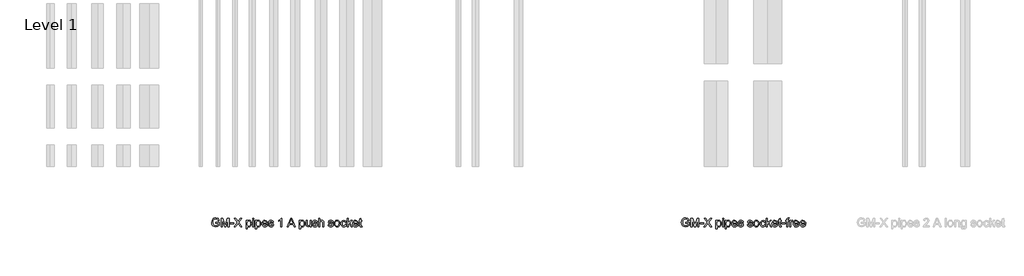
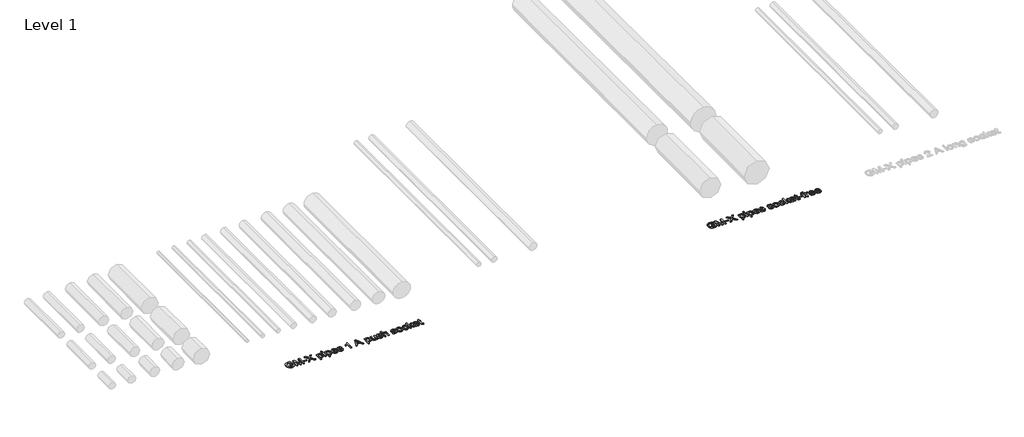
# One storey, part 6 of 8: 2 proxies.
"""IFC4 building model written with IfcOpenShell, lengths in millimetres."""

from ifc_helpers import new_model, si_unit, origin, origin_with_axes, place, context, project, spatial, polyline, outline, extrude, element, save

model = new_model("IFC4")

# Units and contexts
model_context = context("Model", 3, world=origin())
ifc_project = project(units=[si_unit("LENGTHUNIT", "METRE", prefix="MILLI")], contexts=[model_context])

# Site, building, storey
site = spatial("IfcSite", under=ifc_project)
building = spatial("IfcBuilding", under=site)
storey = spatial("IfcBuildingStorey", under=building, Name="Level 1", Elevation=0.0)

# Proxies
placement = place(None, origin())
element("IfcBuildingElementProxy", 1, Name="100mm ACO", ObjectType="100mm ACO", at=placement, inside=storey, context=model_context, shape_type="SweptSolid", body=[
    extrude(outline(polyline([(3317.5925926, -686.6608796), (3298.1843171, -698.0541088), (3277.0543981, -701.8518519), (3256.6731771, -698.3362269), (3240.6684028, -687.7893519), (3230.3059896, -671.412037), (3226.8518519, -650.4050926), (3232.4797454, -623.900463), (3239.4422743, -613.0135995), (3249.0740741, -604.8900463), (3261.2630208, -599.8336227), (3275.8969907, -598.1481481), (3290.7335069, -600.0217014), (3302.3148148, -605.6423611), (3310.6481481, -615.0028935), (3315.7407407, -628.0960648), (3302.7777778, -631.4814815), (3299.0198206, -621.7773437), (3293.1278935, -614.8292824), (3285.1019965, -610.651765), (3274.9421296, -609.2592593), (3259.6824363, -612.0659722), (3248.6834491, -620.4861111), (3242.0319734, -633.4490741), (3239.8148148, -649.8842593), (3244.1984954, -672.4971065), (3257.2048611, -686.1255787), (3275.9548611, -690.7407407), (3290.8203125, -687.9340278), (3304.6296296, -679.5138889), (3304.6296296, -659.2592593), (3275.0, -659.2592593), (3275.0, -648.1481481), (3317.5925926, -648.1481481), (3317.5925926, -686.6608796)])), origin_with_axes(), (0.0, 0.0, 1.0), 10.0),
    extrude(outline(polyline([(3430.5555556, -700.0), (3417.5925926, -700.0), (3417.5925926, -616.2037037), (3392.0717593, -700.0), (3378.2986111, -700.0), (3351.3020833, -614.84375), (3350.9259259, -700.0), (3337.962963, -700.0), (3337.962963, -600.0), (3357.6678241, -600.0), (3380.4976852, -670.8622685), (3384.9247685, -685.6770833), (3389.9305556, -669.6469907), (3411.2847222, -600.0), (3430.5555556, -600.0), (3430.5555556, -700.0)])), origin_with_axes(), (0.0, 0.0, 1.0), 10.0),
    extrude(outline(polyline([(3484.2592593, -666.6666667), (3445.3703704, -666.6666667), (3445.3703704, -657.4074074), (3484.2592593, -657.4074074), (3484.2592593, -666.6666667)])), origin_with_axes(), (0.0, 0.0, 1.0), 10.0),
    extrude(outline(polyline([(3580.5555556, -700.0), (3564.9305556, -700.0), (3544.0104167, -671.4699074), (3534.9537037, -658.7384259), (3503.7615741, -700.0), (3487.962963, -700.0), (3526.9097222, -648.0902778), (3491.6666667, -600.0), (3507.2916667, -600.0), (3529.5717593, -630.4108796), (3534.7800926, -637.5578704), (3562.9340278, -600.0), (3578.7037037, -600.0), (3542.5925926, -648.1770833), (3580.5555556, -700.0)])), origin_with_axes(), (0.0, 0.0, 1.0), 10.0),
    extrude(outline(polyline([(3641.796875, -636.4872685), (3650.2531829, -628.5662616), (3661.9212963, -625.9259259), (3674.2476852, -628.515625), (3683.6805556, -636.2847222), (3689.6701389, -648.2132523), (3691.6666667, -663.28125), (3689.4097222, -679.1702836), (3682.6388889, -691.4207176), (3672.583912, -699.2440683), (3660.474537, -701.8518519), (3650.1012731, -699.7251157), (3642.0138889, -693.3449074), (3641.6666667, -727.7777778), (3628.7037037, -727.7777778), (3628.7037037, -627.7777778), (3641.6666667, -627.7777778), (3641.796875, -636.4872685)]), holes=[polyline([(3659.056713, -692.5925926), (3666.8294271, -690.766059), (3673.1336806, -685.2864583), (3677.3111979, -676.1899595), (3678.7037037, -663.5127315), (3677.3618345, -651.4359086), (3673.3362269, -642.5202546), (3667.2200521, -637.0189525), (3659.6064815, -635.1851852), (3651.7252604, -637.2287326), (3645.384838, -643.359375), (3641.2073206, -652.7452257), (3639.8148148, -664.5543981), (3641.1494502, -676.66739), (3645.1533565, -685.4600694), (3651.2984664, -690.8094618), (3659.056713, -692.5925926)])]), origin_with_axes(), (0.0, 0.0, 1.0), 10.0),
    extrude(outline(polyline([(3719.4444444, -612.962963), (3706.4814815, -612.962963), (3706.4814815, -600.0), (3719.4444444, -600.0), (3719.4444444, -612.962963)])), origin_with_axes(), (0.0, 0.0, 1.0), 10.0),
    extrude(outline(polyline([(3719.4444444, -700.0), (3706.4814815, -700.0), (3706.4814815, -627.7777778), (3719.4444444, -627.7777778), (3719.4444444, -700.0)])), origin_with_axes(), (0.0, 0.0, 1.0), 10.0),
    extrude(outline(polyline([(3751.0561343, -636.4872685), (3759.5124421, -628.5662616), (3771.1805556, -625.9259259), (3783.5069444, -628.515625), (3792.9398148, -636.2847222), (3798.9293981, -648.2132523), (3800.9259259, -663.28125), (3798.6689815, -679.1702836), (3791.8981481, -691.4207176), (3781.8431713, -699.2440683), (3769.7337963, -701.8518519), (3759.3605324, -699.7251157), (3751.2731481, -693.3449074), (3750.9259259, -727.7777778), (3737.962963, -727.7777778), (3737.962963, -627.7777778), (3750.9259259, -627.7777778), (3751.0561343, -636.4872685)]), holes=[polyline([(3768.3159722, -692.5925926), (3776.0886863, -690.766059), (3782.3929398, -685.2864583), (3786.5704572, -676.1899595), (3787.962963, -663.5127315), (3786.6210938, -651.4359086), (3782.5954861, -642.5202546), (3776.4793113, -637.0189525), (3768.8657407, -635.1851852), (3760.9845197, -637.2287326), (3754.6440972, -643.359375), (3750.4665799, -652.7452257), (3749.0740741, -664.5543981), (3750.4087095, -676.66739), (3754.4126157, -685.4600694), (3760.5577257, -690.8094618), (3768.3159722, -692.5925926)])]), origin_with_axes(), (0.0, 0.0, 1.0), 10.0),
    extrude(outline(polyline([(3878.7037037, -666.6666667), (3825.0, -666.6666667), (3827.0724826, -677.7922454), (3831.7853009, -685.9375), (3838.566985, -690.9288194), (3846.8460648, -692.5925926), (3858.521412, -688.9033565), (3865.7407407, -677.7777778), (3878.7037037, -679.2824074), (3874.3272569, -688.9033565), (3867.3900463, -696.0069444), (3858.1452546, -700.390625), (3846.8460648, -701.8518519), (3832.2591146, -699.3453414), (3821.2528935, -691.8258102), (3814.3410012, -679.9660012), (3812.037037, -664.4386574), (3814.2578125, -648.900463), (3820.9201389, -636.6030093), (3831.6189236, -628.5951968), (3845.9490741, -625.9259259), (3861.1689815, -629.3836806), (3873.5966435, -641.1603009), (3877.4269387, -651.6963252), (3878.7037037, -666.6666667)]), holes=[polyline([(3865.7407407, -657.4074074), (3863.6574074, -647.2511574), (3858.912037, -640.3935185), (3845.630787, -635.1851852), (3837.7748843, -636.7332176), (3831.4525463, -641.3773148), (3825.0, -657.4074074), (3865.7407407, -657.4074074)])]), origin_with_axes(), (0.0, 0.0, 1.0), 10.0),
    extrude(outline(polyline([(3934.2592593, -648.1481481), (3929.4704861, -638.4259259), (3918.4027778, -635.1851852), (3907.0891204, -637.962963), (3902.7777778, -646.0358796), (3905.6278935, -653.1828704), (3919.068287, -657.0601852), (3936.791088, -661.2268519), (3945.8333333, -667.5491898), (3949.0740741, -678.8773148), (3947.0630787, -687.8074363), (3941.0300926, -695.2112269), (3931.6333912, -700.1916956), (3919.53125, -701.8518519), (3907.0565683, -700.4557292), (3897.6417824, -696.2673611), (3891.2796586, -689.2939815), (3887.962963, -679.5428241), (3900.9259259, -677.7777778), (3906.5248843, -688.9033565), (3919.53125, -692.5925926), (3931.8287037, -688.7586806), (3936.1111111, -679.4270833), (3934.1869213, -673.4519676), (3929.3836806, -670.0810185), (3915.7986111, -667.1875), (3894.8640046, -659.375), (3889.8148148, -646.7881944), (3891.6847512, -638.5018808), (3897.2945602, -631.8142361), (3906.0655382, -627.3980035), (3917.4189815, -625.9259259), (3929.3511285, -627.2135417), (3938.2957176, -631.0763889), (3944.2527488, -637.5072338), (3947.2222222, -646.4988426), (3934.2592593, -648.1481481)])), origin_with_axes(), (0.0, 0.0, 1.0), 10.0),
    extrude(outline(polyline([(4045.3703704, -700.0), (4032.4074074, -700.0), (4032.4074074, -622.2222222), (4008.3333333, -637.037037), (4008.3333333, -627.7777778), (4026.6059028, -616.0590278), (4037.962963, -601.8518519), (4045.3703704, -601.8518519), (4045.3703704, -700.0)])), origin_with_axes(), (0.0, 0.0, 1.0), 10.0),
    extrude(outline(polyline([(4201.3888889, -700.0), (4187.5868056, -700.0), (4175.6076389, -670.3703704), (4133.1597222, -670.3703704), (4121.6435185, -700.0), (4107.8703704, -700.0), (4146.7303241, -600.0), (4160.9085648, -600.0), (4201.3888889, -700.0)]), holes=[polyline([(4171.09375, -659.2592593), (4156.6695602, -622.5983796), (4153.7037037, -610.9375), (4149.0451389, -629.5138889), (4137.5, -659.2592593), (4171.09375, -659.2592593)])]), origin_with_axes(), (0.0, 0.0, 1.0), 10.0),
    extrude(outline(polyline([(4262.1672454, -636.4872685), (4270.6235532, -628.5662616), (4282.2916667, -625.9259259), (4294.6180556, -628.515625), (4304.0509259, -636.2847222), (4310.0405093, -648.2132523), (4312.037037, -663.28125), (4309.7800926, -679.1702836), (4303.0092593, -691.4207176), (4292.9542824, -699.2440683), (4280.8449074, -701.8518519), (4270.4716435, -699.7251157), (4262.3842593, -693.3449074), (4262.037037, -727.7777778), (4249.0740741, -727.7777778), (4249.0740741, -627.7777778), (4262.037037, -627.7777778), (4262.1672454, -636.4872685)]), holes=[polyline([(4279.4270833, -692.5925926), (4287.1997975, -690.766059), (4293.5040509, -685.2864583), (4297.6815683, -676.1899595), (4299.0740741, -663.5127315), (4297.7322049, -651.4359086), (4293.7065972, -642.5202546), (4287.5904225, -637.0189525), (4279.9768519, -635.1851852), (4272.0956308, -637.2287326), (4265.7552083, -643.359375), (4261.577691, -652.7452257), (4260.1851852, -664.5543981), (4261.5198206, -676.66739), (4265.5237269, -685.4600694), (4271.6688368, -690.8094618), (4279.4270833, -692.5925926)])]), origin_with_axes(), (0.0, 0.0, 1.0), 10.0),
    extrude(outline(polyline([(4386.1111111, -700.0), (4375.0, -700.0), (4375.0, -689.4965278), (4364.7569444, -698.7630208), (4351.7939815, -701.8518519), (4337.6736111, -698.3362269), (4329.0219907, -688.6574074), (4326.8518519, -672.65625), (4326.8518519, -627.7777778), (4339.8148148, -627.7777778), (4339.8148148, -668.75), (4340.7118056, -682.8414352), (4345.3993056, -689.84375), (4354.4270833, -692.5925926), (4367.1730324, -687.6736111), (4371.6543692, -680.1215278), (4373.1481481, -667.3032407), (4373.1481481, -627.7777778), (4386.1111111, -627.7777778), (4386.1111111, -700.0)])), origin_with_axes(), (0.0, 0.0, 1.0), 10.0),
    extrude(outline(polyline([(4445.3703704, -648.1481481), (4440.5815972, -638.4259259), (4429.5138889, -635.1851852), (4418.2002315, -637.962963), (4413.8888889, -646.0358796), (4416.7390046, -653.1828704), (4430.1793981, -657.0601852), (4447.9021991, -661.2268519), (4456.9444444, -667.5491898), (4460.1851852, -678.8773148), (4458.1741898, -687.8074363), (4452.1412037, -695.2112269), (4442.7445023, -700.1916956), (4430.6423611, -701.8518519), (4418.1676794, -700.4557292), (4408.7528935, -696.2673611), (4402.3907697, -689.2939815), (4399.0740741, -679.5428241), (4412.037037, -677.7777778), (4417.6359954, -688.9033565), (4430.6423611, -692.5925926), (4442.9398148, -688.7586806), (4447.2222222, -679.4270833), (4445.2980324, -673.4519676), (4440.4947917, -670.0810185), (4426.9097222, -667.1875), (4405.9751157, -659.375), (4400.9259259, -646.7881944), (4402.7958623, -638.5018808), (4408.4056713, -631.8142361), (4417.1766493, -627.3980035), (4428.5300926, -625.9259259), (4440.4622396, -627.2135417), (4449.4068287, -631.0763889), (4455.36386, -637.5072338), (4458.3333333, -646.4988426), (4445.3703704, -648.1481481)])), origin_with_axes(), (0.0, 0.0, 1.0), 10.0),
    extrude(outline(polyline([(4532.4074074, -700.0), (4519.4444444, -700.0), (4519.4444444, -653.2986111), (4515.7552083, -639.7135417), (4504.7453704, -635.1851852), (4491.8113426, -640.5237269), (4487.536169, -647.9564525), (4486.1111111, -659.5775463), (4486.1111111, -700.0), (4473.1481481, -700.0), (4473.1481481, -600.0), (4486.1111111, -600.0), (4486.1111111, -635.8217593), (4495.8116319, -628.3998843), (4507.6678241, -625.9259259), (4520.9490741, -628.7905093), (4529.8466435, -637.6012731), (4532.4074074, -654.1087963), (4532.4074074, -700.0)])), origin_with_axes(), (0.0, 0.0, 1.0), 10.0),
    extrude(outline(polyline([(4630.5555556, -648.1481481), (4625.7667824, -638.4259259), (4614.6990741, -635.1851852), (4603.3854167, -637.962963), (4599.0740741, -646.0358796), (4601.9241898, -653.1828704), (4615.3645833, -657.0601852), (4633.0873843, -661.2268519), (4642.1296296, -667.5491898), (4645.3703704, -678.8773148), (4643.359375, -687.8074363), (4637.3263889, -695.2112269), (4627.9296875, -700.1916956), (4615.8275463, -701.8518519), (4603.3528646, -700.4557292), (4593.9380787, -696.2673611), (4587.5759549, -689.2939815), (4584.2592593, -679.5428241), (4597.2222222, -677.7777778), (4602.8211806, -688.9033565), (4615.8275463, -692.5925926), (4628.125, -688.7586806), (4632.4074074, -679.4270833), (4630.4832176, -673.4519676), (4625.6799769, -670.0810185), (4612.0949074, -667.1875), (4591.1603009, -659.375), (4586.1111111, -646.7881944), (4587.9810475, -638.5018808), (4593.5908565, -631.8142361), (4602.3618345, -627.3980035), (4613.7152778, -625.9259259), (4625.6474248, -627.2135417), (4634.5920139, -631.0763889), (4640.5490451, -637.5072338), (4643.5185185, -646.4988426), (4630.5555556, -648.1481481)])), origin_with_axes(), (0.0, 0.0, 1.0), 10.0),
    extrude(outline(polyline([(4687.9340278, -625.9259259), (4701.1103877, -628.3203125), (4711.8200231, -635.5034722), (4718.927228, -647.0992477), (4721.2962963, -662.7314815), (4718.7319155, -681.0040509), (4711.0387731, -692.9976852), (4700.1338252, -699.6383102), (4687.9340278, -701.8518519), (4675.3436053, -699.5768229), (4664.5399306, -692.7517361), (4657.1072049, -680.9859664), (4654.6296296, -663.8888889), (4657.0240162, -647.1715856), (4664.2071759, -635.3298611), (4674.927662, -628.2769097), (4687.9340278, -625.9259259)]), holes=[polyline([(4687.9340278, -692.5925926), (4696.7411748, -690.5852141), (4703.1394676, -684.5630787), (4708.3333333, -663.4259259), (4706.8648727, -651.1429398), (4702.4594907, -642.3032407), (4695.8912037, -636.9646991), (4687.9340278, -635.1851852), (4679.8213252, -636.9900174), (4673.3072917, -642.4045139), (4669.0212674, -651.3925058), (4667.5925926, -663.9178241), (4669.0465856, -676.3997396), (4673.4085648, -685.3732639), (4679.9479167, -690.7877604), (4687.9340278, -692.5925926)])]), origin_with_axes(), (0.0, 0.0, 1.0), 10.0),
    extrude(outline(polyline([(4797.2222222, -675.5497685), (4793.1929977, -687.3553241), (4786.0243056, -695.5150463), (4776.6999421, -700.2676505), (4766.2037037, -701.8518519), (4751.8880208, -699.2621528), (4741.2326389, -691.4930556), (4734.6137153, -679.4487847), (4732.4074074, -664.0335648), (4737.4421296, -641.3483796), (4750.0434028, -629.3836806), (4765.943287, -625.9259259), (4785.4021991, -631.5827546), (4791.937934, -638.566985), (4795.3703704, -648.2060185), (4782.4074074, -650.0), (4776.5046296, -638.9033565), (4766.087963, -635.1851852), (4757.1325231, -637.0695891), (4750.6365741, -642.7228009), (4746.6869213, -651.7541956), (4745.3703704, -663.7731481), (4746.6905382, -676.0018808), (4750.6510417, -685.083912), (4757.0999711, -690.7154225), (4765.8854167, -692.5925926), (4778.4866898, -687.962963), (4784.2592593, -674.0740741), (4797.2222222, -675.5497685)])), origin_with_axes(), (0.0, 0.0, 1.0), 10.0),
    extrude(outline(polyline([(4865.7407407, -700.0), (4852.8645833, -700.0), (4826.7650463, -662.037037), (4817.5925926, -670.3703704), (4817.5925926, -700.0), (4804.6296296, -700.0), (4804.6296296, -600.0), (4817.5925926, -600.0), (4817.5925926, -655.9895833), (4848.5821759, -627.7777778), (4864.3518519, -627.7777778), (4834.6643519, -654.8032407), (4865.7407407, -700.0)])), origin_with_axes(), (0.0, 0.0, 1.0), 10.0),
    extrude(outline(polyline([(4936.1111111, -666.6666667), (4882.4074074, -666.6666667), (4884.47989, -677.7922454), (4889.1927083, -685.9375), (4895.9743924, -690.9288194), (4904.2534722, -692.5925926), (4915.9288194, -688.9033565), (4923.1481481, -677.7777778), (4936.1111111, -679.2824074), (4931.7346644, -688.9033565), (4924.7974537, -696.0069444), (4915.552662, -700.390625), (4904.2534722, -701.8518519), (4889.666522, -699.3453414), (4878.6603009, -691.8258102), (4871.7484086, -679.9660012), (4869.4444444, -664.4386574), (4871.6652199, -648.900463), (4878.3275463, -636.6030093), (4889.026331, -628.5951968), (4903.3564815, -625.9259259), (4918.5763889, -629.3836806), (4931.0040509, -641.1603009), (4934.8343461, -651.6963252), (4936.1111111, -666.6666667)]), holes=[polyline([(4923.1481481, -657.4074074), (4921.0648148, -647.2511574), (4916.3194444, -640.3935185), (4903.0381944, -635.1851852), (4895.1822917, -636.7332176), (4888.8599537, -641.3773148), (4882.4074074, -657.4074074), (4923.1481481, -657.4074074)])]), origin_with_axes(), (0.0, 0.0, 1.0), 10.0),
    extrude(outline(polyline([(4978.7037037, -701.0127315), (4969.6180556, -701.8518519), (4958.0295139, -698.9728009), (4953.587963, -691.6666667), (4952.7777778, -679.3402778), (4952.7777778, -637.037037), (4943.5185185, -637.037037), (4943.5185185, -627.7777778), (4952.7777778, -627.7777778), (4952.7777778, -609.4328704), (4965.7407407, -601.8518519), (4965.7407407, -627.7777778), (4976.8518519, -627.7777778), (4976.8518519, -637.037037), (4965.7407407, -637.037037), (4965.7407407, -681.9444444), (4966.7824074, -690.162037), (4972.0775463, -692.5925926), (4977.1122685, -692.5925926), (4978.7037037, -701.0127315)])), origin_with_axes(), (0.0, 0.0, 1.0), 10.0),
])
element("IfcBuildingElementProxy", 2, Name="100mm ACO", ObjectType="100mm ACO", at=placement, inside=storey, context=model_context, shape_type="SweptSolid", body=[
    extrude(outline(polyline([(8787.037037, -686.6608796), (8767.6287616, -698.0541088), (8746.4988426, -701.8518519), (8726.1176215, -698.3362269), (8710.1128472, -687.7893519), (8699.750434, -671.412037), (8696.2962963, -650.4050926), (8701.9241898, -623.900463), (8708.8867188, -613.0135995), (8718.5185185, -604.8900463), (8730.7074653, -599.8336227), (8745.3414352, -598.1481481), (8760.1779514, -600.0217014), (8771.7592593, -605.6423611), (8780.0925926, -615.0028935), (8785.1851852, -628.0960648), (8772.2222222, -631.4814815), (8768.464265, -621.7773438), (8762.572338, -614.8292824), (8754.546441, -610.651765), (8744.3865741, -609.2592593), (8729.1268808, -612.0659722), (8718.1278935, -620.4861111), (8711.4764178, -633.4490741), (8709.2592593, -649.8842593), (8713.6429398, -672.4971065), (8726.6493056, -686.1255787), (8745.3993056, -690.7407407), (8760.2647569, -687.9340278), (8774.0740741, -679.5138889), (8774.0740741, -659.2592593), (8744.4444444, -659.2592593), (8744.4444444, -648.1481481), (8787.037037, -648.1481481), (8787.037037, -686.6608796)])), origin_with_axes(), (0.0, 0.0, 1.0), 10.0),
    extrude(outline(polyline([(8900.0, -700.0), (8887.037037, -700.0), (8887.037037, -616.2037037), (8861.5162037, -700.0), (8847.7430556, -700.0), (8820.7465278, -614.84375), (8820.3703704, -700.0), (8807.4074074, -700.0), (8807.4074074, -600.0), (8827.1122685, -600.0), (8849.9421296, -670.8622685), (8854.369213, -685.6770833), (8859.375, -669.6469907), (8880.7291667, -600.0), (8900.0, -600.0), (8900.0, -700.0)])), origin_with_axes(), (0.0, 0.0, 1.0), 10.0),
    extrude(outline(polyline([(8953.7037037, -666.6666667), (8914.8148148, -666.6666667), (8914.8148148, -657.4074074), (8953.7037037, -657.4074074), (8953.7037037, -666.6666667)])), origin_with_axes(), (0.0, 0.0, 1.0), 10.0),
    extrude(outline(polyline([(9050.0, -700.0), (9034.375, -700.0), (9013.4548611, -671.4699074), (9004.3981481, -658.7384259), (8973.2060185, -700.0), (8957.4074074, -700.0), (8996.3541667, -648.0902778), (8961.1111111, -600.0), (8976.7361111, -600.0), (8999.0162037, -630.4108796), (9004.224537, -637.5578704), (9032.3784722, -600.0), (9048.1481481, -600.0), (9012.037037, -648.1770833), (9050.0, -700.0)])), origin_with_axes(), (0.0, 0.0, 1.0), 10.0),
    extrude(outline(polyline([(9111.2413194, -636.4872685), (9119.6976273, -628.5662616), (9131.3657407, -625.9259259), (9143.6921296, -628.515625), (9153.125, -636.2847222), (9159.1145833, -648.2132523), (9161.1111111, -663.28125), (9158.8541667, -679.1702836), (9152.0833333, -691.4207176), (9142.0283565, -699.2440683), (9129.9189815, -701.8518519), (9119.5457176, -699.7251157), (9111.4583333, -693.3449074), (9111.1111111, -727.7777778), (9098.1481481, -727.7777778), (9098.1481481, -627.7777778), (9111.1111111, -627.7777778), (9111.2413194, -636.4872685)]), holes=[polyline([(9128.5011574, -692.5925926), (9136.2738715, -690.766059), (9142.578125, -685.2864583), (9146.7556424, -676.1899595), (9148.1481481, -663.5127315), (9146.8062789, -651.4359086), (9142.7806713, -642.5202546), (9136.6644965, -637.0189525), (9129.0509259, -635.1851852), (9121.1697049, -637.2287326), (9114.8292824, -643.359375), (9110.651765, -652.7452257), (9109.2592593, -664.5543981), (9110.5938947, -676.66739), (9114.5978009, -685.4600694), (9120.7429109, -690.8094618), (9128.5011574, -692.5925926)])]), origin_with_axes(), (0.0, 0.0, 1.0), 10.0),
    extrude(outline(polyline([(9188.8888889, -612.962963), (9175.9259259, -612.962963), (9175.9259259, -600.0), (9188.8888889, -600.0), (9188.8888889, -612.962963)])), origin_with_axes(), (0.0, 0.0, 1.0), 10.0),
    extrude(outline(polyline([(9188.8888889, -700.0), (9175.9259259, -700.0), (9175.9259259, -627.7777778), (9188.8888889, -627.7777778), (9188.8888889, -700.0)])), origin_with_axes(), (0.0, 0.0, 1.0), 10.0),
    extrude(outline(polyline([(9220.5005787, -636.4872685), (9228.9568866, -628.5662616), (9240.625, -625.9259259), (9252.9513889, -628.515625), (9262.3842593, -636.2847222), (9268.3738426, -648.2132523), (9270.3703704, -663.28125), (9268.1134259, -679.1702836), (9261.3425926, -691.4207176), (9251.2876157, -699.2440683), (9239.1782407, -701.8518519), (9228.8049769, -699.7251157), (9220.7175926, -693.3449074), (9220.3703704, -727.7777778), (9207.4074074, -727.7777778), (9207.4074074, -627.7777778), (9220.3703704, -627.7777778), (9220.5005787, -636.4872685)]), holes=[polyline([(9237.7604167, -692.5925926), (9245.5331308, -690.766059), (9251.8373843, -685.2864583), (9256.0149016, -676.1899595), (9257.4074074, -663.5127315), (9256.0655382, -651.4359086), (9252.0399306, -642.5202546), (9245.9237558, -637.0189525), (9238.3101852, -635.1851852), (9230.4289641, -637.2287326), (9224.0885417, -643.359375), (9219.9110243, -652.7452257), (9218.5185185, -664.5543981), (9219.8531539, -676.66739), (9223.8570602, -685.4600694), (9230.0021701, -690.8094618), (9237.7604167, -692.5925926)])]), origin_with_axes(), (0.0, 0.0, 1.0), 10.0),
    extrude(outline(polyline([(9348.1481481, -666.6666667), (9294.4444444, -666.6666667), (9296.5169271, -677.7922454), (9301.2297454, -685.9375), (9308.0114294, -690.9288194), (9316.2905093, -692.5925926), (9327.9658565, -688.9033565), (9335.1851852, -677.7777778), (9348.1481481, -679.2824074), (9343.7717014, -688.9033565), (9336.8344907, -696.0069444), (9327.5896991, -700.390625), (9316.2905093, -701.8518519), (9301.703559, -699.3453414), (9290.697338, -691.8258102), (9283.7854456, -679.9660012), (9281.4814815, -664.4386574), (9283.7022569, -648.900463), (9290.3645833, -636.6030093), (9301.0633681, -628.5951968), (9315.3935185, -625.9259259), (9330.6134259, -629.3836806), (9343.041088, -641.1603009), (9346.8713831, -651.6963252), (9348.1481481, -666.6666667)]), holes=[polyline([(9335.1851852, -657.4074074), (9333.1018519, -647.2511574), (9328.3564815, -640.3935185), (9315.0752315, -635.1851852), (9307.2193287, -636.7332176), (9300.8969907, -641.3773148), (9294.4444444, -657.4074074), (9335.1851852, -657.4074074)])]), origin_with_axes(), (0.0, 0.0, 1.0), 10.0),
    extrude(outline(polyline([(9403.7037037, -648.1481481), (9398.9149306, -638.4259259), (9387.8472222, -635.1851852), (9376.5335648, -637.962963), (9372.2222222, -646.0358796), (9375.072338, -653.1828704), (9388.5127315, -657.0601852), (9406.2355324, -661.2268519), (9415.2777778, -667.5491898), (9418.5185185, -678.8773148), (9416.5075231, -687.8074363), (9410.474537, -695.2112269), (9401.0778356, -700.1916956), (9388.9756944, -701.8518519), (9376.5010127, -700.4557292), (9367.0862269, -696.2673611), (9360.724103, -689.2939815), (9357.4074074, -679.5428241), (9370.3703704, -677.7777778), (9375.9693287, -688.9033565), (9388.9756944, -692.5925926), (9401.2731481, -688.7586806), (9405.5555556, -679.4270833), (9403.6313657, -673.4519676), (9398.828125, -670.0810185), (9385.2430556, -667.1875), (9364.3084491, -659.375), (9359.2592593, -646.7881944), (9361.1291956, -638.5018808), (9366.7390046, -631.8142361), (9375.5099826, -627.3980035), (9386.8634259, -625.9259259), (9398.7955729, -627.2135417), (9407.740162, -631.0763889), (9413.6971933, -637.5072338), (9416.6666667, -646.4988426), (9403.7037037, -648.1481481)])), origin_with_axes(), (0.0, 0.0, 1.0), 10.0),
    extrude(outline(polyline([(9511.1111111, -648.1481481), (9506.322338, -638.4259259), (9495.2546296, -635.1851852), (9483.9409722, -637.962963), (9479.6296296, -646.0358796), (9482.4797454, -653.1828704), (9495.9201389, -657.0601852), (9513.6429398, -661.2268519), (9522.6851852, -667.5491898), (9525.9259259, -678.8773148), (9523.9149306, -687.8074363), (9517.8819444, -695.2112269), (9508.4852431, -700.1916956), (9496.3831019, -701.8518519), (9483.9084201, -700.4557292), (9474.4936343, -696.2673611), (9468.1315104, -689.2939815), (9464.8148148, -679.5428241), (9477.7777778, -677.7777778), (9483.3767361, -688.9033565), (9496.3831019, -692.5925926), (9508.6805556, -688.7586806), (9512.962963, -679.4270833), (9511.0387731, -673.4519676), (9506.2355324, -670.0810185), (9492.650463, -667.1875), (9471.7158565, -659.375), (9466.6666667, -646.7881944), (9468.536603, -638.5018808), (9474.146412, -631.8142361), (9482.91739, -627.3980035), (9494.2708333, -625.9259259), (9506.2029803, -627.2135417), (9515.1475694, -631.0763889), (9521.1046007, -637.5072338), (9524.0740741, -646.4988426), (9511.1111111, -648.1481481)])), origin_with_axes(), (0.0, 0.0, 1.0), 10.0),
    extrude(outline(polyline([(9568.4895833, -625.9259259), (9581.6659433, -628.3203125), (9592.3755787, -635.5034722), (9599.4827836, -647.0992477), (9601.8518519, -662.7314815), (9599.2874711, -681.0040509), (9591.5943287, -692.9976852), (9580.6893808, -699.6383102), (9568.4895833, -701.8518519), (9555.8991609, -699.5768229), (9545.0954861, -692.7517361), (9537.6627604, -680.9859664), (9535.1851852, -663.8888889), (9537.5795718, -647.1715856), (9544.7627315, -635.3298611), (9555.4832176, -628.2769097), (9568.4895833, -625.9259259)]), holes=[polyline([(9568.4895833, -692.5925926), (9577.2967303, -690.5852141), (9583.6950231, -684.5630787), (9588.8888889, -663.4259259), (9587.4204282, -651.1429398), (9583.0150463, -642.3032407), (9576.4467593, -636.9646991), (9568.4895833, -635.1851852), (9560.3768808, -636.9900174), (9553.8628472, -642.4045139), (9549.5768229, -651.3925058), (9548.1481481, -663.9178241), (9549.6021412, -676.3997396), (9553.9641204, -685.3732639), (9560.5034722, -690.7877604), (9568.4895833, -692.5925926)])]), origin_with_axes(), (0.0, 0.0, 1.0), 10.0),
    extrude(outline(polyline([(9677.7777778, -675.5497685), (9673.7485532, -687.3553241), (9666.5798611, -695.5150463), (9657.2554977, -700.2676505), (9646.7592593, -701.8518519), (9632.4435764, -699.2621528), (9621.7881944, -691.4930556), (9615.1692708, -679.4487847), (9612.962963, -664.0335648), (9617.9976852, -641.3483796), (9630.5989583, -629.3836806), (9646.4988426, -625.9259259), (9665.9577546, -631.5827546), (9672.4934896, -638.566985), (9675.9259259, -648.2060185), (9662.962963, -650.0), (9657.0601852, -638.9033565), (9646.6435185, -635.1851852), (9637.6880787, -637.0695891), (9631.1921296, -642.7228009), (9627.2424769, -651.7541956), (9625.9259259, -663.7731481), (9627.2460938, -676.0018808), (9631.2065972, -685.083912), (9637.6555266, -690.7154225), (9646.4409722, -692.5925926), (9659.0422454, -687.962963), (9664.8148148, -674.0740741), (9677.7777778, -675.5497685)])), origin_with_axes(), (0.0, 0.0, 1.0), 10.0),
    extrude(outline(polyline([(9746.2962963, -700.0), (9733.4201389, -700.0), (9707.3206019, -662.037037), (9698.1481481, -670.3703704), (9698.1481481, -700.0), (9685.1851852, -700.0), (9685.1851852, -600.0), (9698.1481481, -600.0), (9698.1481481, -655.9895833), (9729.1377315, -627.7777778), (9744.9074074, -627.7777778), (9715.2199074, -654.8032407), (9746.2962963, -700.0)])), origin_with_axes(), (0.0, 0.0, 1.0), 10.0),
    extrude(outline(polyline([(9816.6666667, -666.6666667), (9762.962963, -666.6666667), (9765.0354456, -677.7922454), (9769.7482639, -685.9375), (9776.5299479, -690.9288194), (9784.8090278, -692.5925926), (9796.484375, -688.9033565), (9803.7037037, -677.7777778), (9816.6666667, -679.2824074), (9812.2902199, -688.9033565), (9805.3530093, -696.0069444), (9796.1082176, -700.390625), (9784.8090278, -701.8518519), (9770.2220775, -699.3453414), (9759.2158565, -691.8258102), (9752.3039641, -679.9660012), (9750.0, -664.4386574), (9752.2207755, -648.900463), (9758.8831019, -636.6030093), (9769.5818866, -628.5951968), (9783.912037, -625.9259259), (9799.1319444, -629.3836806), (9811.5596065, -641.1603009), (9815.3899016, -651.6963252), (9816.6666667, -666.6666667)]), holes=[polyline([(9803.7037037, -657.4074074), (9801.6203704, -647.2511574), (9796.875, -640.3935185), (9783.59375, -635.1851852), (9775.7378472, -636.7332176), (9769.4155093, -641.3773148), (9762.962963, -657.4074074), (9803.7037037, -657.4074074)])]), origin_with_axes(), (0.0, 0.0, 1.0), 10.0),
    extrude(outline(polyline([(9859.2592593, -701.0127315), (9850.1736111, -701.8518519), (9838.5850694, -698.9728009), (9834.1435185, -691.6666667), (9833.3333333, -679.3402778), (9833.3333333, -637.037037), (9824.0740741, -637.037037), (9824.0740741, -627.7777778), (9833.3333333, -627.7777778), (9833.3333333, -609.4328704), (9846.2962963, -601.8518519), (9846.2962963, -627.7777778), (9857.4074074, -627.7777778), (9857.4074074, -637.037037), (9846.2962963, -637.037037), (9846.2962963, -681.9444444), (9847.337963, -690.162037), (9852.6331019, -692.5925926), (9857.6678241, -692.5925926), (9859.2592593, -701.0127315)])), origin_with_axes(), (0.0, 0.0, 1.0), 10.0),
    extrude(outline(polyline([(9903.7037037, -666.6666667), (9864.8148148, -666.6666667), (9864.8148148, -657.4074074), (9903.7037037, -657.4074074), (9903.7037037, -666.6666667)])), origin_with_axes(), (0.0, 0.0, 1.0), 10.0),
    extrude(outline(polyline([(9950.0, -599.1030093), (9948.4085648, -607.4074074), (9942.1006944, -607.4074074), (9935.7928241, -609.5341435), (9933.3333333, -620.0520833), (9933.3333333, -627.7777778), (9944.4444444, -627.7777778), (9944.4444444, -637.037037), (9933.3333333, -637.037037), (9933.3333333, -700.0), (9920.3703704, -700.0), (9920.3703704, -637.037037), (9909.2592593, -637.037037), (9909.2592593, -627.7777778), (9920.3703704, -627.7777778), (9920.3703704, -619.849537), (9921.3396991, -609.8668981), (9926.4467593, -601.7650463), (9939.2071759, -598.1481481), (9950.0, -599.1030093)])), origin_with_axes(), (0.0, 0.0, 1.0), 10.0),
    extrude(outline(polyline([(9994.4444444, -628.7615741), (9990.3935185, -637.037037), (9981.8865741, -635.1851852), (9976.0923032, -636.8127894), (9971.9039352, -641.6956019), (9968.5185185, -659.9247685), (9968.5185185, -700.0), (9955.5555556, -700.0), (9955.5555556, -627.7777778), (9966.6666667, -627.7777778), (9966.6666667, -638.4837963), (9973.5966435, -629.0653935), (9982.03125, -625.9259259), (9994.4444444, -628.7615741)])), origin_with_axes(), (0.0, 0.0, 1.0), 10.0),
    extrude(outline(polyline([(10064.8148148, -666.6666667), (10011.1111111, -666.6666667), (10013.1835938, -677.7922454), (10017.896412, -685.9375), (10024.6780961, -690.9288194), (10032.9571759, -692.5925926), (10044.6325231, -688.9033565), (10051.8518519, -677.7777778), (10064.8148148, -679.2824074), (10060.4383681, -688.9033565), (10053.5011574, -696.0069444), (10044.2563657, -700.390625), (10032.9571759, -701.8518519), (10018.3702257, -699.3453414), (10007.3640046, -691.8258102), (10000.4521123, -679.9660012), (9998.1481481, -664.4386574), (10000.3689236, -648.900463), (10007.03125, -636.6030093), (10017.7300347, -628.5951968), (10032.0601852, -625.9259259), (10047.2800926, -629.3836806), (10059.7077546, -641.1603009), (10063.5380498, -651.6963252), (10064.8148148, -666.6666667)]), holes=[polyline([(10051.8518519, -657.4074074), (10049.7685185, -647.2511574), (10045.0231481, -640.3935185), (10031.7418981, -635.1851852), (10023.8859954, -636.7332176), (10017.5636574, -641.3773148), (10011.1111111, -657.4074074), (10051.8518519, -657.4074074)])]), origin_with_axes(), (0.0, 0.0, 1.0), 10.0),
    extrude(outline(polyline([(10142.5925926, -666.6666667), (10088.8888889, -666.6666667), (10090.9613715, -677.7922454), (10095.6741898, -685.9375), (10102.4558738, -690.9288194), (10110.7349537, -692.5925926), (10122.4103009, -688.9033565), (10129.6296296, -677.7777778), (10142.5925926, -679.2824074), (10138.2161458, -688.9033565), (10131.2789352, -696.0069444), (10122.0341435, -700.390625), (10110.7349537, -701.8518519), (10096.1480035, -699.3453414), (10085.1417824, -691.8258102), (10078.22989, -679.9660012), (10075.9259259, -664.4386574), (10078.1467014, -648.900463), (10084.8090278, -636.6030093), (10095.5078125, -628.5951968), (10109.837963, -625.9259259), (10125.0578704, -629.3836806), (10137.4855324, -641.1603009), (10141.3158275, -651.6963252), (10142.5925926, -666.6666667)]), holes=[polyline([(10129.6296296, -657.4074074), (10127.5462963, -647.2511574), (10122.8009259, -640.3935185), (10109.5196759, -635.1851852), (10101.6637731, -636.7332176), (10095.3414352, -641.3773148), (10088.8888889, -657.4074074), (10129.6296296, -657.4074074)])]), origin_with_axes(), (0.0, 0.0, 1.0), 10.0),
])

save(model, "model.ifc")
